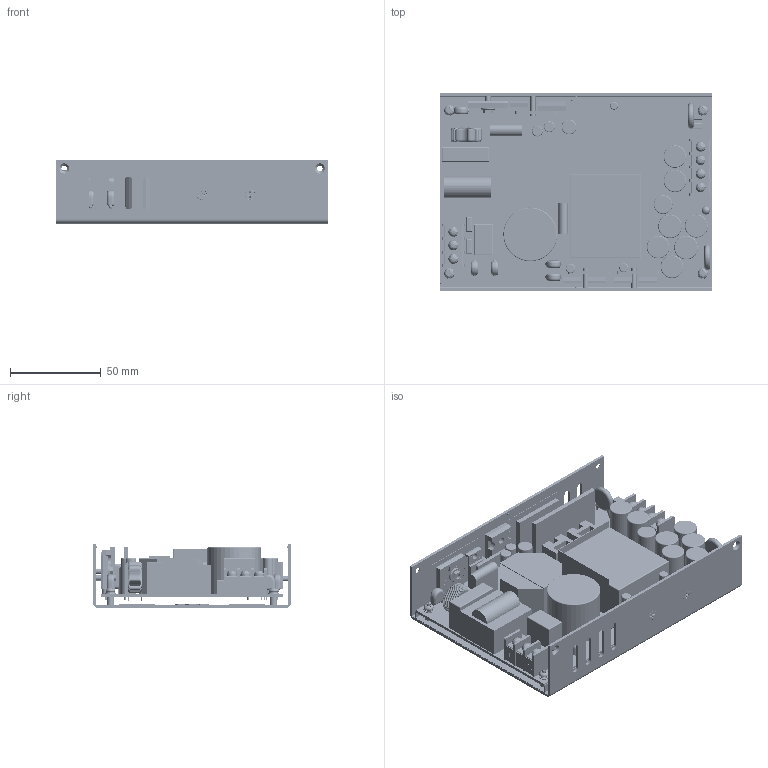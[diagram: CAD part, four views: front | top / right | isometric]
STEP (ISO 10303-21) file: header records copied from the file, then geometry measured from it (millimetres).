
FILE_DESCRIPTION((''),'2;1');
FILE_NAME('AQF240U_ASM','2016-02-03T',('arch'),(''),'PRO/ENGINEER BY PARAMETRIC TECHNOLOGY CORPORATION, 2008380','PRO/ENGINEER BY PARAMETRIC TECHNOLOGY CORPORATION, 2008380','');
FILE_SCHEMA(('AUTOMOTIVE_DESIGN { 1 2 10303 214 0 1 1 1 }'));
Length unit declared in the file: millimetre
Products named in the file (61): PCB-4084; INLET_9_MM_8; INLET_9_MM_9; INLET_9_MM_10; INLET_-_IN_ASM_ASM_ASM_ASM_ASM_ASM; VR; MANIFOLD_SOLID_BREP_82914; MANIFOLD_SOLID_BREP_105888; L1_ASM_ASM_ASM_ASM_ASM_ASM; FSF10A60_1; FSF10A60_2; FSF10A60_3; FSF10A60_4; SBL6040PT_1; FSF10A60_5; D1_1; LED; CY6; Y_--_C; PCB-4045_ASM_ASM_ASM_ASM_ASM_ASM; MYLAR_-_CASE; MANIFOLD_SOLID_BREP_157444; MANIFOLD_SOLID_BREP_157590; MANIFOLD_SOLID_BREP_157864; SCREW_CH_W__M3_8MM_ASM_ASM_ASM__ASM; SILICON_-_BD1_D4; SILICON_-_Q11-14; HEATSINK_-_L24_W8_MM; MYLAR_-_T1; ASM0001_ASM_ASM_ASM_ASM_ASM_ASM; PRT0010; PRT0011; PRT0012; PRT0013; PRT0014; PRT0015; PRT0016; PRT0017; PRT0018; PRT0019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
Assembly tree (68 placements, depth 8):
  AQF240U_ASM
    240U_ASM_ASM_ASM_ASM_ASM_ASM
      ASM0001_ASM_ASM_ASM_ASM
        ASSEMBLY_-_240U_ASM_ASM_ASM_ASM_ASM
          ASM0001_ASM_ASM_ASM_ASM_ASM_ASM
            PCB-4045_ASM_ASM_ASM_ASM_ASM_ASM
              PCB-4084
              INLET_-_IN_ASM_ASM_ASM_ASM_ASM_ASM
                INLET_9_MM_8
                INLET_9_MM_9
                INLET_9_MM_10
              VR
              L1_ASM_ASM_ASM_ASM_ASM_ASM
                MANIFOLD_SOLID_BREP_82914
                MANIFOLD_SOLID_BREP_105888
              FSF10A60_1
              FSF10A60_2
              FSF10A60_3
              FSF10A60_4
              SBL6040PT_1
              FSF10A60_5
              D1_1
              LED
              CY6  x2
              Y_--_C  x5
            MYLAR_-_CASE
            SCREW_CH_W__M3_8MM_ASM_ASM_ASM__ASM  x4
              MANIFOLD_SOLID_BREP_157444
              MANIFOLD_SOLID_BREP_157590
              MANIFOLD_SOLID_BREP_157864
            SILICON_-_BD1_D4
            SILICON_-_Q11-14
            HEATSINK_-_L24_W8_MM
            MYLAR_-_T1
          ASM0002_ASM_ASM_ASM_ASM_ASM_ASM
            ASM0003_ASM_ASM_ASM_ASM_ASM_ASM
              PRT0010
              PRT0011
              PRT0012
              PRT0013
              PRT0014
              PRT0015
              PRT0016
              PRT0017
              PRT0018
              PRT0019
              PRT0020
              PRT0021
        SCREW_PH_M3_14MM
        PRT0002
        PRT0003
        PRT0004
        PRT0005
      M3-10
      OUT_ASM_ASM
        INLET_-_OUT_ASM_ASM_ASM
          INLET_9_MM_3
          INLET_9_MM_4
      _V-BLAKE
      PRT0001
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Bounding box: 150 x 109.2 x 35 mm (x, y, z)
Volume: 226093.8 mm3; surface area: 180115.4 mm2
Topology: 62 solids, 63 shells, 5654 faces, 14356 edges, 8970 vertices
Faces by surface type: plane 1723, cylinder 1719, torus 1438, extrusion 544, cone 128, bspline 100, sphere 2
Entity records: 175703 total; most frequent: CARTESIAN_POINT 45076, DIRECTION 26661, ORIENTED_EDGE 26480, EDGE_CURVE 13242, AXIS2_PLACEMENT_3D 10317, VERTEX_POINT 8258, VECTOR 6027, EDGE_LOOP 5640
